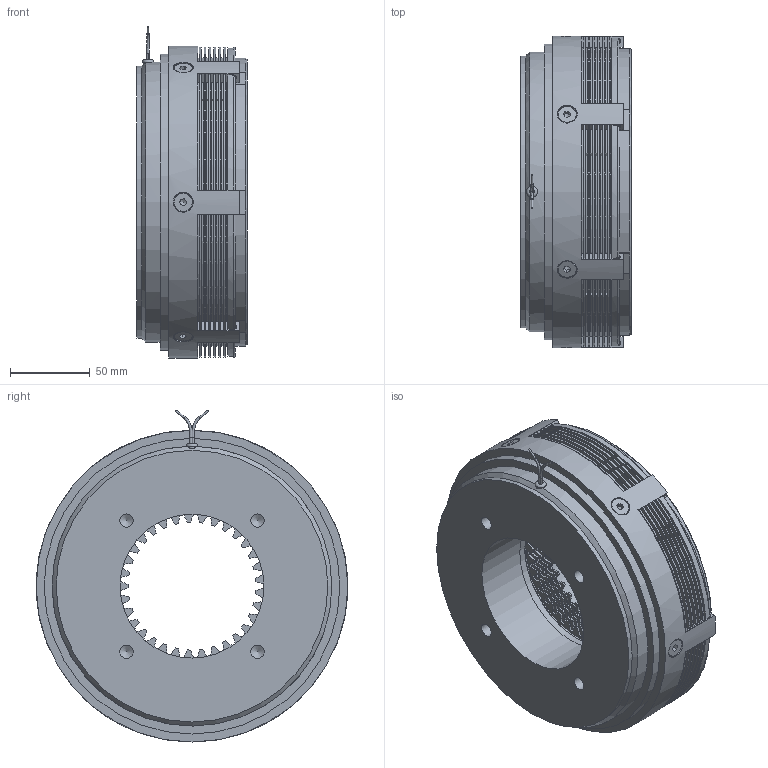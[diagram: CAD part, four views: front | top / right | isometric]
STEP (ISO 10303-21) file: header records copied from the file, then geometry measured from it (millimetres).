
FILE_DESCRIPTION(/* description */ (''),/* implementation_level */ '2;1');
FILE_NAME(/* name */ 'X:\INVENTOR\DISEGNI\05_Friz_Elettmag-Lam\05_06 EC_F\05_06_195_01 EC_F195\05_06_195_01 EC_F195@STEP.stp',/* time_stamp */ '2023-03-10T14:31:40+01:00',/* author */ ('alessio'),/* organization */ (''),/* preprocessor_version */ 'ST-DEVELOPER v18.1',/* originating_system */ 'Autodesk Inventor 2021',/* authorisation */ '');
FILE_SCHEMA (('AUTOMOTIVE_DESIGN { 1 0 10303 214 3 1 1 }'));
Products named in the file (1): 05_06_195_01 EC_F195
Bounding box: 69 x 195 x 207.72 mm (x, y, z)
Volume: 1283494.3 mm3; surface area: 556441.3 mm2
Topology: 13 solids, 25 shells, 2166 faces, 6379 edges, 4216 vertices
Faces by surface type: cylinder 1668, plane 446, cone 43, torus 7, bspline 2
Full cylindrical faces by diameter (mm): 1 x6, 1.154 x2, 1.5 x1, 2 x6, 4.917 x6, 6 x6, 6.5 x6, 8.376 x4, 11.34 x6, 12.5 x6, 90 x1, 92 x2, 128 x1, 131 x1, 155 x1, 156 x1, 170 x1, 175 x1, 180 x1, 185 x1, 195 x1
Entity records: 77716 total; most frequent: CARTESIAN_POINT 14252, DIRECTION 14075, ORIENTED_EDGE 12766, EDGE_CURVE 6383, AXIS2_PLACEMENT_3D 5676, VERTEX_POINT 4228, CIRCLE 3497, LINE 2723
